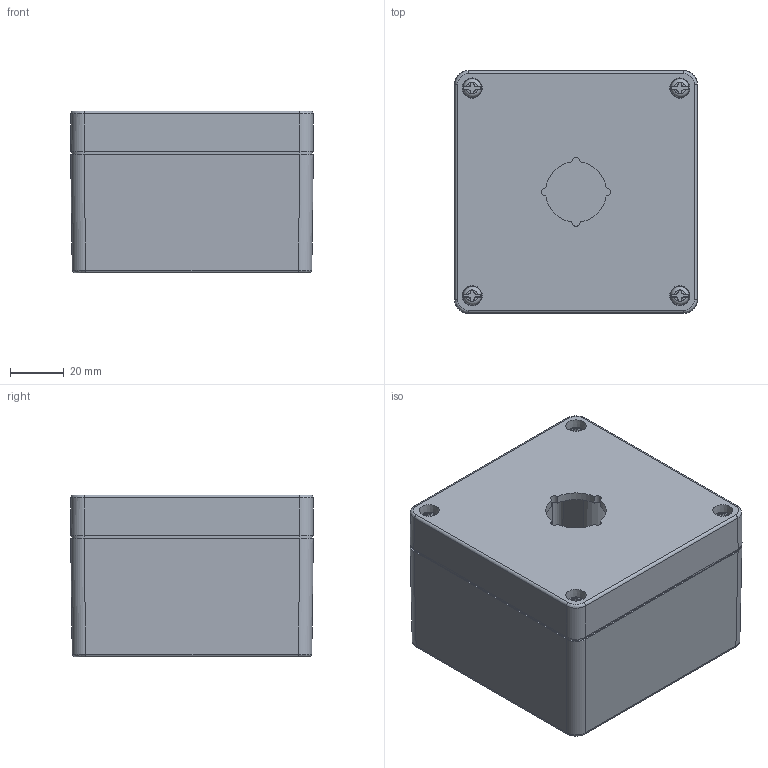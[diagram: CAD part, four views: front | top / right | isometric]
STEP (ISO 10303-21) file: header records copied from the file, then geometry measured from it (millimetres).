
FILE_DESCRIPTION(/* description */ (''),/* implementation_level */ '2;1');
FILE_NAME(/* name */ 'C:\Users\Mbeerman\Desktop\b\1554MPB1\1554MPB1.iam.stp',/* time_stamp */ '2015-12-17T09:02:31-05:00',/* author */ ('rboehler'),/* organization */ (''),/* preprocessor_version */ 'ST-DEVELOPER v16.1',/* originating_system */ 'Autodesk Inventor 2016',/* authorisation */ '');
FILE_SCHEMA (('AUTOMOTIVE_DESIGN { 1 0 10303 214 3 1 1 }'));
Products named in the file (6): 1554E Box; 1554E Lid 22.5mm x 1; 1554E-EE GASKET; 1554E-EE Panel; SC576 (screw M4-0.7X 20mm PN); 1554MPB1
Assembly tree (8 placements, depth 2):
  1554MPB1
    1554E Box
    1554E Lid 22.5mm x 1
    1554E-EE GASKET
    1554E-EE Panel
    SC576 (screw M4-0.7X 20mm PN)  x4
Bounding box: 90 x 90 x 60 mm (x, y, z)
Volume: 131670.5 mm3; surface area: 102640.6 mm2
Topology: 8 solids, 8 shells, 710 faces, 1750 edges, 1110 vertices
Faces by surface type: plane 302, cone 170, cylinder 134, torus 76, sphere 16, bspline 12
Full cylindrical faces by diameter (mm): 2 x8, 2.794 x2, 3.43 x4, 3.5 x4, 3.734 x4, 3.88 x4
Entity records: 18693 total; most frequent: CARTESIAN_POINT 3811, DIRECTION 3296, ORIENTED_EDGE 2886, EDGE_CURVE 1443, AXIS2_PLACEMENT_3D 1296, VERTEX_POINT 933, EDGE_LOOP 766, LINE 704
